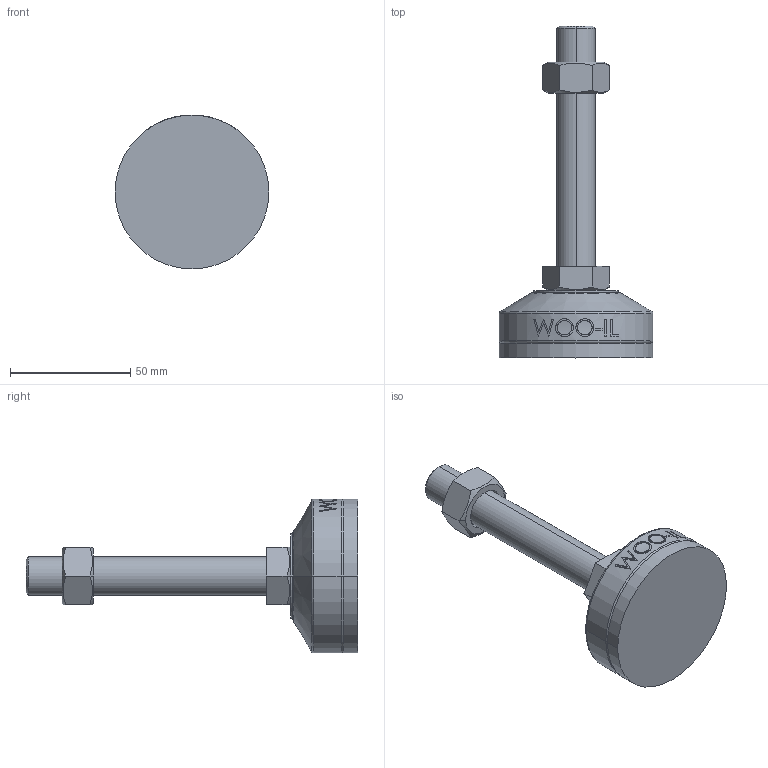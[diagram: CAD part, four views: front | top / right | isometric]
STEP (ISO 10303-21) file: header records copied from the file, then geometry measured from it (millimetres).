
FILE_DESCRIPTION (( 'STEP AP214' ), '1' );
FILE_NAME ('MFZR64-M16-100.step', '2021-03-29T06:55:42', ( '' ), ( '' ), 'SwSTEP 2.0', 'SolidWorks 2019', '' );
FILE_SCHEMA (( 'AUTOMOTIVE_DESIGN' ));
Length unit declared in the file: millimetre
Products named in the file (2): MFZR64-M16-100
Bounding box: 64 x 138 x 64 mm (x, y, z)
Volume: 107230.2 mm3; surface area: 26056.7 mm2
Topology: 4 solids, 4 shells, 103 faces, 235 edges, 150 vertices
Faces by surface type: plane 49, cylinder 18, bspline 16, cone 14, torus 6
Entity records: 4435 total; most frequent: CARTESIAN_POINT 2162, ORIENTED_EDGE 470, DIRECTION 417, EDGE_CURVE 235, AXIS2_PLACEMENT_3D 159, VERTEX_POINT 150, EDGE_LOOP 115, FACE_OUTER_BOUND 103
